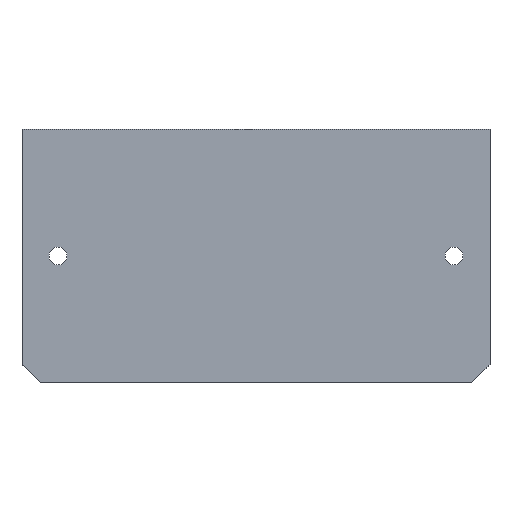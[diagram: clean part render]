
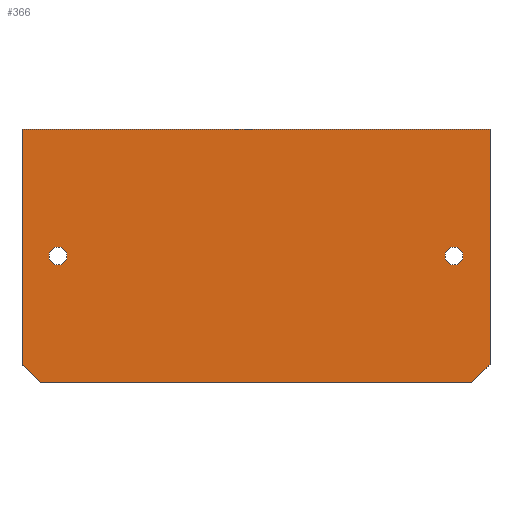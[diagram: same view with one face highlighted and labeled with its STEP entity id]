
A CAD part, front view. The second image highlights one B-rep face of the part: STEP entity #366.
In plain terms, the highlighted planar face has unit normal (0, -1, 0).
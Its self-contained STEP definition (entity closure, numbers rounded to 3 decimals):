
#1 = DIRECTION ( 'NONE',  ( 0., 1., 0. ) ) ;
#4 = ORIENTED_EDGE ( 'NONE', *, *, #50, .T. ) ;
#5 = EDGE_CURVE ( 'NONE', #160, #49, #373, .T. ) ;
#7 = VERTEX_POINT ( 'NONE', #54 ) ;
#8 = DIRECTION ( 'NONE',  ( 0., 0., 1. ) ) ;
#9 = EDGE_LOOP ( 'NONE', ( #309, #81, #46, #311, #146, #361 ) ) ;
#10 = CARTESIAN_POINT ( 'NONE',  ( 22., 0., 1. ) ) ;
#11 = EDGE_CURVE ( 'NONE', #160, #131, #242, .T. ) ;
#12 = DIRECTION ( 'NONE',  ( 0., 0., -1. ) ) ;
#18 = DIRECTION ( 'NONE',  ( 0., 1., 0. ) ) ;
#25 = AXIS2_PLACEMENT_3D ( 'NONE', #228, #1, #8 ) ;
#28 = AXIS2_PLACEMENT_3D ( 'NONE', #117, #18, #203 ) ;
#35 = VERTEX_POINT ( 'NONE', #269 ) ;
#36 = PLANE ( 'NONE',  #134 ) ;
#43 = VECTOR ( 'NONE', #123, 1000. ) ;
#46 = ORIENTED_EDGE ( 'NONE', *, *, #187, .F. ) ;
#47 = CARTESIAN_POINT ( 'NONE',  ( 24., 0., -14.1 ) ) ;
#49 = VERTEX_POINT ( 'NONE', #113 ) ;
#50 = EDGE_CURVE ( 'NONE', #400, #158, #403, .T. ) ;
#54 = CARTESIAN_POINT ( 'NONE',  ( -22., 0., 1. ) ) ;
#61 = CARTESIAN_POINT ( 'NONE',  ( 26., 0., -14.1 ) ) ;
#65 = VECTOR ( 'NONE', #272, 1000. ) ;
#67 = CARTESIAN_POINT ( 'NONE',  ( -26., 0., -12.1 ) ) ;
#73 = DIRECTION ( 'NONE',  ( 0., 1., 0. ) ) ;
#81 = ORIENTED_EDGE ( 'NONE', *, *, #5, .T. ) ;
#91 = AXIS2_PLACEMENT_3D ( 'NONE', #387, #132, #391 ) ;
#102 = EDGE_LOOP ( 'NONE', ( #4, #226 ) ) ;
#103 = CARTESIAN_POINT ( 'NONE',  ( -22., 0., 0. ) ) ;
#113 = CARTESIAN_POINT ( 'NONE',  ( -24., 0., -14.1 ) ) ;
#117 = CARTESIAN_POINT ( 'NONE',  ( 22., 0., 0. ) ) ;
#119 = CARTESIAN_POINT ( 'NONE',  ( -22., 0., -1. ) ) ;
#121 = CARTESIAN_POINT ( 'NONE',  ( -26., 0., -14.1 ) ) ;
#123 = DIRECTION ( 'NONE',  ( 1., 0., 0. ) ) ;
#130 = DIRECTION ( 'NONE',  ( 0., 0., 1. ) ) ;
#131 = VERTEX_POINT ( 'NONE', #281 ) ;
#132 = DIRECTION ( 'NONE',  ( 0., 1., 0. ) ) ;
#133 = VERTEX_POINT ( 'NONE', #119 ) ;
#134 = AXIS2_PLACEMENT_3D ( 'NONE', #164, #285, #130 ) ;
#135 = DIRECTION ( 'NONE',  ( 0., 0., 1. ) ) ;
#138 = DIRECTION ( 'NONE',  ( 0.707, 0., 0.707 ) ) ;
#146 = ORIENTED_EDGE ( 'NONE', *, *, #372, .F. ) ;
#150 = ORIENTED_EDGE ( 'NONE', *, *, #287, .T. ) ;
#158 = VERTEX_POINT ( 'NONE', #345 ) ;
#160 = VERTEX_POINT ( 'NONE', #67 ) ;
#164 = CARTESIAN_POINT ( 'NONE',  ( 0., 0., 0. ) ) ;
#173 = CARTESIAN_POINT ( 'NONE',  ( -26., 0., 14.1 ) ) ;
#177 = CARTESIAN_POINT ( 'NONE',  ( -26., 0., -12.1 ) ) ;
#179 = LINE ( 'NONE', #121, #196 ) ;
#182 = DIRECTION ( 'NONE',  ( -1., 0., 0. ) ) ;
#187 = EDGE_CURVE ( 'NONE', #286, #49, #179, .T. ) ;
#188 = FACE_BOUND ( 'NONE', #102, .T. ) ;
#196 = VECTOR ( 'NONE', #182, 1000. ) ;
#202 = LINE ( 'NONE', #173, #43 ) ;
#203 = DIRECTION ( 'NONE',  ( 0., 0., 1. ) ) ;
#226 = ORIENTED_EDGE ( 'NONE', *, *, #305, .T. ) ;
#228 = CARTESIAN_POINT ( 'NONE',  ( 22., 0., 0. ) ) ;
#242 = LINE ( 'NONE', #404, #274 ) ;
#253 = FACE_BOUND ( 'NONE', #352, .T. ) ;
#260 = VERTEX_POINT ( 'NONE', #327 ) ;
#263 = EDGE_CURVE ( 'NONE', #7, #133, #397, .T. ) ;
#268 = VECTOR ( 'NONE', #138, 1000. ) ;
#269 = CARTESIAN_POINT ( 'NONE',  ( 26., 0., 14.1 ) ) ;
#271 = EDGE_CURVE ( 'NONE', #286, #260, #360, .T. ) ;
#272 = DIRECTION ( 'NONE',  ( 0.707, 0., -0.707 ) ) ;
#274 = VECTOR ( 'NONE', #275, 1000. ) ;
#275 = DIRECTION ( 'NONE',  ( 0., 0., 1. ) ) ;
#281 = CARTESIAN_POINT ( 'NONE',  ( -26., 0., 14.1 ) ) ;
#285 = DIRECTION ( 'NONE',  ( 0., 1., 0. ) ) ;
#286 = VERTEX_POINT ( 'NONE', #47 ) ;
#287 = EDGE_CURVE ( 'NONE', #133, #7, #363, .T. ) ;
#305 = EDGE_CURVE ( 'NONE', #158, #400, #324, .T. ) ;
#307 = LINE ( 'NONE', #61, #370 ) ;
#309 = ORIENTED_EDGE ( 'NONE', *, *, #11, .F. ) ;
#311 = ORIENTED_EDGE ( 'NONE', *, *, #271, .T. ) ;
#314 = FACE_OUTER_BOUND ( 'NONE', #9, .T. ) ;
#321 = ORIENTED_EDGE ( 'NONE', *, *, #263, .T. ) ;
#324 = CIRCLE ( 'NONE', #25, 1. ) ;
#327 = CARTESIAN_POINT ( 'NONE',  ( 26., 0., -12.1 ) ) ;
#345 = CARTESIAN_POINT ( 'NONE',  ( 22., 0., -1. ) ) ;
#352 = EDGE_LOOP ( 'NONE', ( #321, #150 ) ) ;
#353 = CARTESIAN_POINT ( 'NONE',  ( 24., 0., -14.1 ) ) ;
#360 = LINE ( 'NONE', #353, #268 ) ;
#361 = ORIENTED_EDGE ( 'NONE', *, *, #409, .F. ) ;
#363 = CIRCLE ( 'NONE', #91, 1. ) ;
#366 = ADVANCED_FACE ( 'NONE', ( #253, #188, #314 ), #36, .F. ) ;
#370 = VECTOR ( 'NONE', #12, 1000. ) ;
#372 = EDGE_CURVE ( 'NONE', #35, #260, #307, .T. ) ;
#373 = LINE ( 'NONE', #177, #65 ) ;
#384 = AXIS2_PLACEMENT_3D ( 'NONE', #103, #73, #135 ) ;
#387 = CARTESIAN_POINT ( 'NONE',  ( -22., 0., 0. ) ) ;
#391 = DIRECTION ( 'NONE',  ( 0., 0., 1. ) ) ;
#397 = CIRCLE ( 'NONE', #384, 1. ) ;
#400 = VERTEX_POINT ( 'NONE', #10 ) ;
#403 = CIRCLE ( 'NONE', #28, 1. ) ;
#404 = CARTESIAN_POINT ( 'NONE',  ( -26., 0., -14.1 ) ) ;
#409 = EDGE_CURVE ( 'NONE', #131, #35, #202, .T. ) ;
